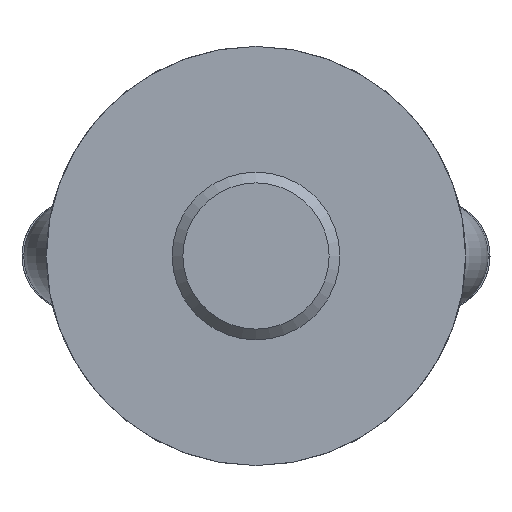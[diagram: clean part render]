
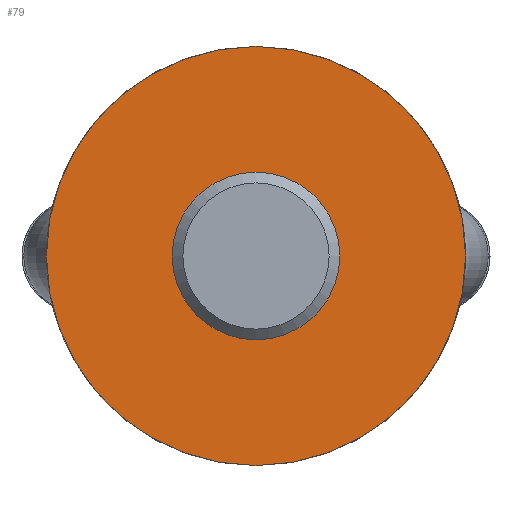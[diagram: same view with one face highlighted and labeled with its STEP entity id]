
A CAD part, front view. The second image highlights one B-rep face of the part: STEP entity #79.
In plain terms, the highlighted planar face has unit normal (0, -1, 0).
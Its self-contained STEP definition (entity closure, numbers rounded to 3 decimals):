
#79 = ADVANCED_FACE( '', ( #115, #116 ), #117, .F. );
#115 = FACE_BOUND( '', #186, .T. );
#116 = FACE_OUTER_BOUND( '', #187, .T. );
#117 = PLANE( '', #188 );
#186 = EDGE_LOOP( '', ( #276 ) );
#187 = EDGE_LOOP( '', ( #277 ) );
#188 = AXIS2_PLACEMENT_3D( '', #278, #279, #280 );
#276 = ORIENTED_EDGE( '', *, *, #464, .T. );
#277 = ORIENTED_EDGE( '', *, *, #465, .T. );
#278 = CARTESIAN_POINT( '', ( 60., 0., 0. ) );
#279 = DIRECTION( '', ( 0., 1., 0. ) );
#280 = DIRECTION( '', ( 0., 0., 1. ) );
#464 = EDGE_CURVE( '', #539, #539, #540, .T. );
#465 = EDGE_CURVE( '', #541, #541, #542, .T. );
#539 = VERTEX_POINT( '', #869 );
#540 = CIRCLE( '', #870, 24. );
#541 = VERTEX_POINT( '', #871 );
#542 = CIRCLE( '', #872, 60. );
#869 = CARTESIAN_POINT( '', ( 0., 0., 24. ) );
#870 = AXIS2_PLACEMENT_3D( '', #1210, #1211, #1212 );
#871 = CARTESIAN_POINT( '', ( 0., 0., -60. ) );
#872 = AXIS2_PLACEMENT_3D( '', #1213, #1214, #1215 );
#1210 = CARTESIAN_POINT( '', ( 0., 0., 0. ) );
#1211 = DIRECTION( '', ( 0., 1., 0. ) );
#1212 = DIRECTION( '', ( 0., 0., 1. ) );
#1213 = CARTESIAN_POINT( '', ( 0., 0., 0. ) );
#1214 = DIRECTION( '', ( 0., -1., 0. ) );
#1215 = DIRECTION( '', ( 0., 0., -1. ) );
